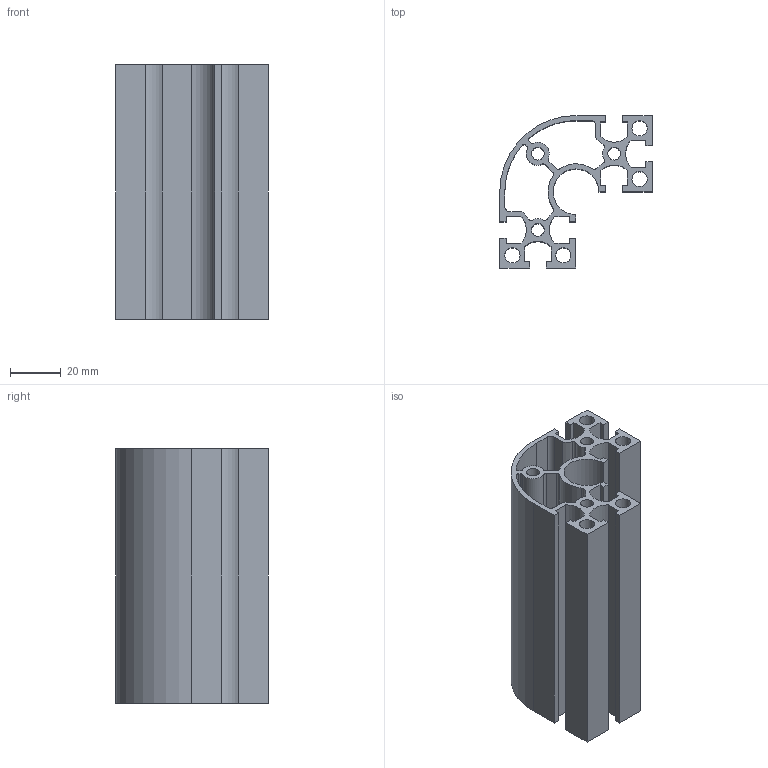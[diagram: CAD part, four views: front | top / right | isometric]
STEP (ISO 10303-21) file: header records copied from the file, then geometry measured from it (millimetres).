
FILE_DESCRIPTION(/* description */ (''),/* implementation_level */ '2;1');
FILE_NAME(/* name */ '\\AM-PUBLIC\Share\02.新型錄-2021\AM6系列\6系列-3D\01.6系列-AM-鋁擠\AM6-6630R_100L.stp',/* time_stamp */ '2021-12-20T10:26:14+08:00',/* author */ ('user'),/* organization */ (''),/* preprocessor_version */ 'ST-DEVELOPER v18.1',/* originating_system */ 'Autodesk Inventor 2021',/* authorisation */ '');
FILE_SCHEMA (('AUTOMOTIVE_DESIGN { 1 0 10303 214 3 1 1 }'));
Length unit declared in the file: millimetre
Products named in the file (1): AM6-6630R_100L
Bounding box: 60 x 60 x 100 mm (x, y, z)
Volume: 80847.1 mm3; surface area: 71594.1 mm2
Topology: 1 solids, 1 shells, 101 faces, 297 edges, 198 vertices
Faces by surface type: plane 58, cylinder 43
Full cylindrical faces by diameter (mm): 5 x3, 6 x4
Entity records: 3463 total; most frequent: CARTESIAN_POINT 597, ORIENTED_EDGE 594, DIRECTION 587, EDGE_CURVE 297, LINE 211, VECTOR 211, VERTEX_POINT 198, AXIS2_PLACEMENT_3D 188
